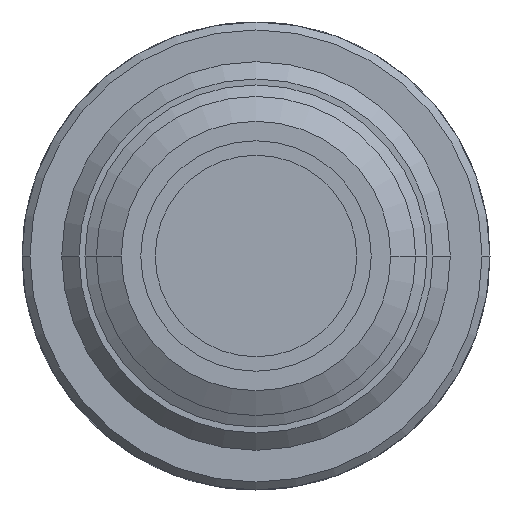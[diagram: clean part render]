
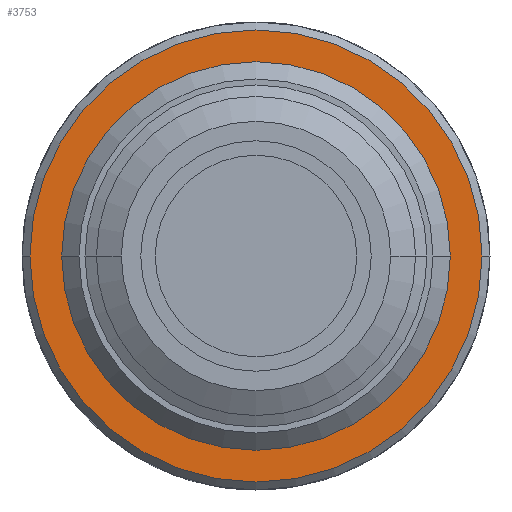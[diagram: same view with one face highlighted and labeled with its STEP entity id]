
A CAD part, left-side view. The second image highlights one B-rep face of the part: STEP entity #3753.
In plain terms, the highlighted planar face has unit normal (-1, 0, 0).
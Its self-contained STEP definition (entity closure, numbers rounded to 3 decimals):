
#1914=CARTESIAN_POINT('',(-38.,0.,0.));
#1915=DIRECTION('',(1.,0.,0.));
#1916=DIRECTION('',(0.,1.,0.));
#1917=AXIS2_PLACEMENT_3D('',#1914,#1915,#1916);
#1922=CARTESIAN_POINT('',(-38.,0.,0.));
#1923=DIRECTION('',(-1.,0.,0.));
#1924=DIRECTION('',(0.,1.,0.));
#1925=AXIS2_PLACEMENT_3D('',#1922,#1923,#1924);
#1930=CARTESIAN_POINT('',(-38.,0.,0.));
#1931=DIRECTION('',(1.,0.,0.));
#1932=DIRECTION('',(0.,-1.,0.));
#1933=AXIS2_PLACEMENT_3D('',#1930,#1931,#1932);
#1938=CARTESIAN_POINT('',(-38.,0.,0.));
#1939=DIRECTION('',(1.,0.,0.));
#1940=DIRECTION('',(0.,1.,0.));
#1941=AXIS2_PLACEMENT_3D('',#1938,#1939,#1940);
#2460=CARTESIAN_POINT('',(-38.,15.7,0.));
#2461=VERTEX_POINT('',#2460);
#2466=CARTESIAN_POINT('',(-38.,-15.7,0.));
#2467=VERTEX_POINT('',#2466);
#2514=CARTESIAN_POINT('',(-38.,-12.5,0.));
#2515=CARTESIAN_POINT('',(-38.,12.5,0.));
#2516=VERTEX_POINT('',#2514);
#2517=VERTEX_POINT('',#2515);
#3738=CARTESIAN_POINT('',(-38.,0.,0.));
#3739=DIRECTION('',(1.,0.,0.));
#3740=DIRECTION('',(0.,-1.,0.));
#3741=AXIS2_PLACEMENT_3D('',#3738,#3739,#3740);
#3742=PLANE('',#3741);
#3744=ORIENTED_EDGE('',*,*,#3743,.T.);
#3746=ORIENTED_EDGE('',*,*,#3745,.F.);
#3747=EDGE_LOOP('',(#3744,#3746));
#3748=FACE_OUTER_BOUND('',#3747,.F.);
#3749=ORIENTED_EDGE('',*,*,#2689,.F.);
#3750=ORIENTED_EDGE('',*,*,#2674,.F.);
#3751=EDGE_LOOP('',(#3749,#3750));
#3752=FACE_BOUND('',#3751,.F.);
#1918=CIRCLE('',#1917,15.7);
#1926=CIRCLE('',#1925,15.7);
#1934=CIRCLE('',#1933,12.5);
#1942=CIRCLE('',#1941,12.5);
#2674=EDGE_CURVE('',#2517,#2516,#1942,.T.);
#2689=EDGE_CURVE('',#2516,#2517,#1934,.T.);
#3743=EDGE_CURVE('',#2461,#2467,#1918,.T.);
#3745=EDGE_CURVE('',#2461,#2467,#1926,.T.);
#3753=ADVANCED_FACE('',(#3748,#3752),#3742,.F.);
